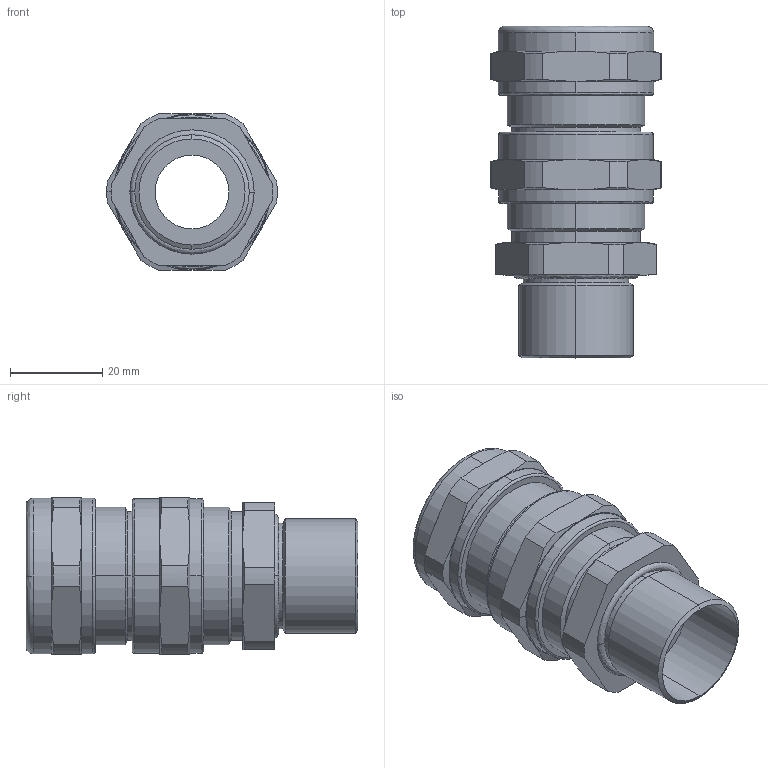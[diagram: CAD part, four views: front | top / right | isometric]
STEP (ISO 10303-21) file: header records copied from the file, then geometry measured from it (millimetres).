
FILE_DESCRIPTION (( 'STEP AP203' ), '1' );
FILE_NAME ('kbau2mbncwcle.STEP', '2016-03-14T16:36:40', ( '' ), ( '' ), 'SwSTEP 2.0', 'SolidWorks 2014', '' );
FILE_SCHEMA (( 'CONFIG_CONTROL_DESIGN' ));
Length unit declared in the file: millimetre
Products named in the file (1): kbau2mbncwcle
Bounding box: 37 x 72 x 34 mm (x, y, z)
Volume: 31349.4 mm3; surface area: 14181.5 mm2
Topology: 1 solids, 1 shells, 126 faces, 288 edges, 175 vertices
Faces by surface type: cylinder 45, cone 40, plane 31, bspline 10
Entity records: 4194 total; most frequent: CARTESIAN_POINT 1338, DIRECTION 595, ORIENTED_EDGE 576, EDGE_CURVE 288, AXIS2_PLACEMENT_3D 258, VERTEX_POINT 175, CIRCLE 141, EDGE_LOOP 139
